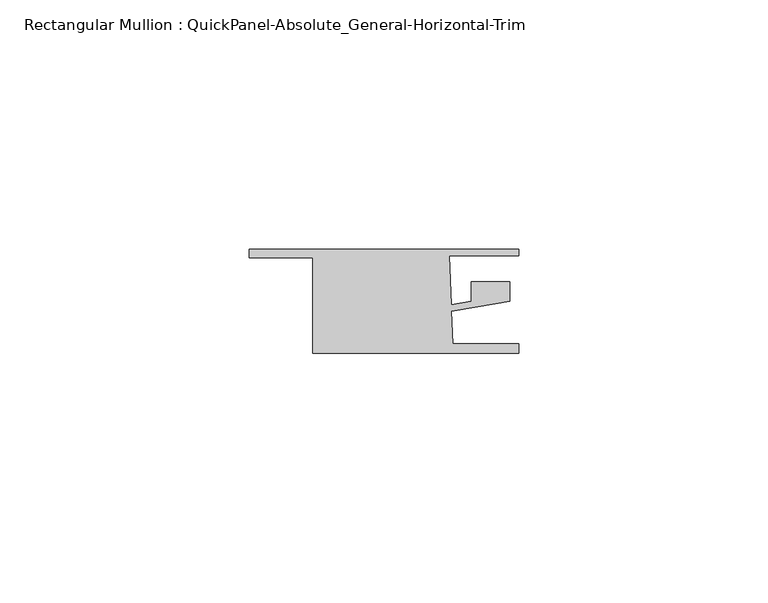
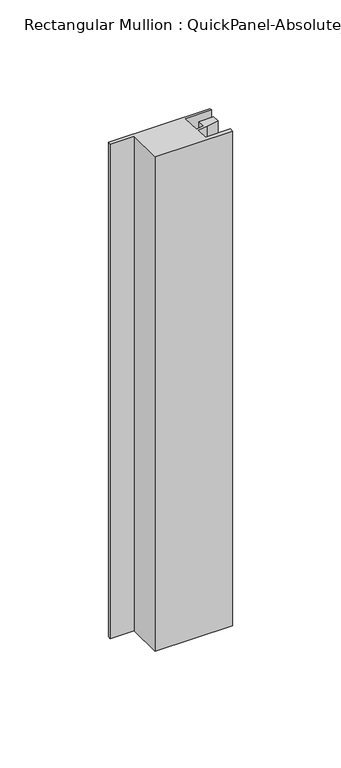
"""IFC4 building model written with IfcOpenShell, lengths in millimetres: member geometry, Rectangular Mullion : QuickPanel-Absolute_General-Horizontal-Trim."""

from ifc_helpers import new_model, si_unit, frame, origin, place, context, project, spatial, polyline, outline, extrude, source, transform, mapped, element, save


def rectangular_mullion_quickpanel_absolute_general_horizontal_1e457ea4(model_context):
    return source(origin(), model_context, "Body", "SweptSolid", [
        extrude(outline(polyline([(28.3897075, -8.6293878), (-12.9047811, -8.6293878), (-12.9047811, 10.4985348), (-25.5852925, 10.4985348), (-25.5852925, 12.1803727), (28.3897075, 12.1803727), (28.3897075, 10.9303752), (14.533354, 10.9303752), (14.8772811, 1.0815922), (18.86285, 1.7648465), (18.86285, 5.6493034), (26.6076231, 5.6493034), (26.6076231, 1.8040245), (20.1722905, 0.7008023), (14.9220096, -0.1992641), (15.1487948, -6.6935423), (28.3897075, -6.6935423), (28.3897075, -8.6293878)])), frame((0.0, 0.0, -277.9567492), z_axis=(0.0, 0.0, 1.0), x_axis=(1.0, 0.0, 0.0)), (0.0, 0.0, 1.0), 277.9567492),
    ])


if __name__ == "__main__":
    model = new_model("IFC4")
    model_context = context("Model", 3, world=origin())
    ifc_project = project(units=[si_unit("LENGTHUNIT", "METRE", prefix="MILLI")], contexts=[model_context])
    site = spatial("IfcSite", under=ifc_project)
    building = spatial("IfcBuilding", under=site)
    placement = place(None, origin())
    rectangular_mullion_quickpanel_absolute_general_horizontal_shape = rectangular_mullion_quickpanel_absolute_general_horizontal_1e457ea4(model_context)
    element("IfcMember", 1, ObjectType="Rectangular Mullion : QuickPanel-Absolute_General-Horizontal-Trim", at=placement, inside=building, context=model_context, shape_type="MappedRepresentation", body=[
        mapped(rectangular_mullion_quickpanel_absolute_general_horizontal_shape, transform((0.0, 0.0, 0.0), x_axis=(1.0, 0.0, 0.0), y_axis=(0.0, 1.0, 0.0), z_axis=(0.0, 0.0, 1.0))),
    ])
    save(model, "model.ifc")
